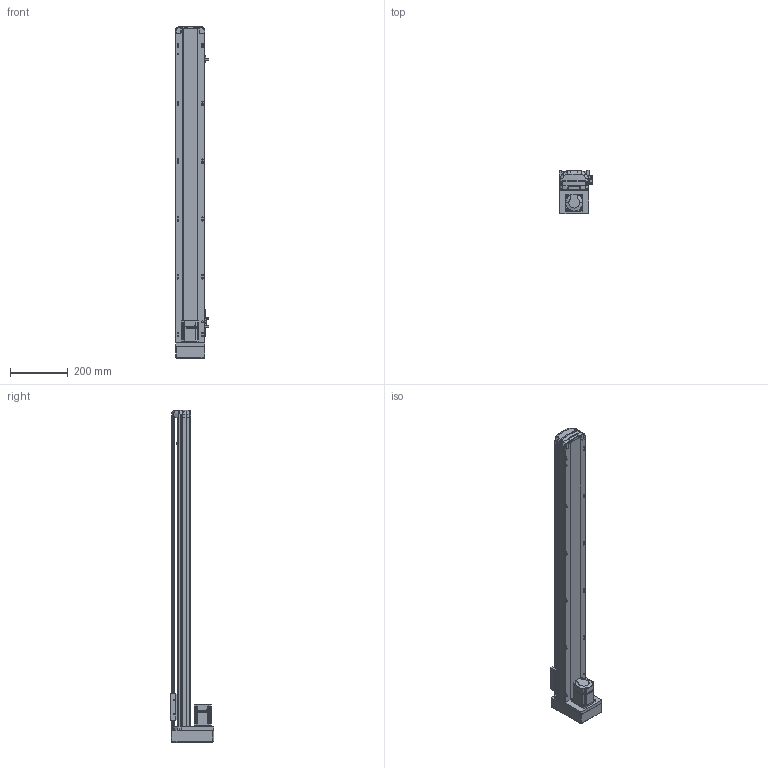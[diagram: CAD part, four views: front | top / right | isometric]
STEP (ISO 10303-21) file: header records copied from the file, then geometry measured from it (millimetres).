
FILE_DESCRIPTION (( 'STEP AP214' ), '1' );
FILE_NAME ('RTH10-XX-900-M-M20-C4.STEP', '2025-10-25T04:52:44', ( 'Microsoft' ), ( 'Microsoft' ), 'SwSTEP 2.0', 'SolidWorks 2018', '' );
FILE_SCHEMA (( 'AUTOMOTIVE_DESIGN' ));
Length unit declared in the file: millimetre
Products named in the file (10): N_RTH12-GY-001P^RTH10-XX-XX-M-M20-C4; N_RTH12-M-008-萇儂啣^RTH10-XX-XX-M-M20-C4; N_RTH12-M-018-裔赽^RTH10-XX-XX-M-M20-C4; N_OMRON EE-SX672 传感器^RTH10-XX-XX-M-M20-C4; N_RTH13-L-012覜茼え俋离^RTH10-XX-XX-M-M20-C4; N_RTH12-GY-004-賑釱^RTH10-XX-XX-M-M20-C4; N_RTH12-M-007P-奻裔^RTH10-XX-XX-M-M20-C4; N_200W-1^RTH10-XX-XX-M-M20-C4; RTH10-XX-900-M-M20-C4; N_RTH12-M-011P-臏倰第菁釱^RTH10-XX-XX-M-M20-C4
Assembly tree (11 placements, depth 2):
  RTH10-XX-900-M-M20-C4
    N_RTH12-M-011P-臏倰第菁釱^RTH10-XX-XX-M-M20-C4
    N_RTH13-L-012覜茼え俋离^RTH10-XX-XX-M-M20-C4
    N_OMRON EE-SX672 传感器^RTH10-XX-XX-M-M20-C4  x3
    N_200W-1^RTH10-XX-XX-M-M20-C4
    N_RTH12-M-007P-奻裔^RTH10-XX-XX-M-M20-C4
    N_RTH12-M-008-萇儂啣^RTH10-XX-XX-M-M20-C4
    N_RTH12-M-018-裔赽^RTH10-XX-XX-M-M20-C4
    N_RTH12-GY-004-賑釱^RTH10-XX-XX-M-M20-C4
    N_RTH12-GY-001P^RTH10-XX-XX-M-M20-C4
Bounding box: 116.5 x 149 x 1147.31 mm (x, y, z)
Volume: 5176922.6 mm3; surface area: 764787.3 mm2
Topology: 10 solids, 12 shells, 2009 faces, 5614 edges, 3687 vertices
Faces by surface type: plane 995, cylinder 507, bspline 472, cone 29, sphere 4, torus 2
Entity records: 60756 total; most frequent: CARTESIAN_POINT 23659, ORIENTED_EDGE 8300, DIRECTION 6464, EDGE_CURVE 4156, VERTEX_POINT 2731, LINE 2224, VECTOR 2224, AXIS2_PLACEMENT_3D 2120
